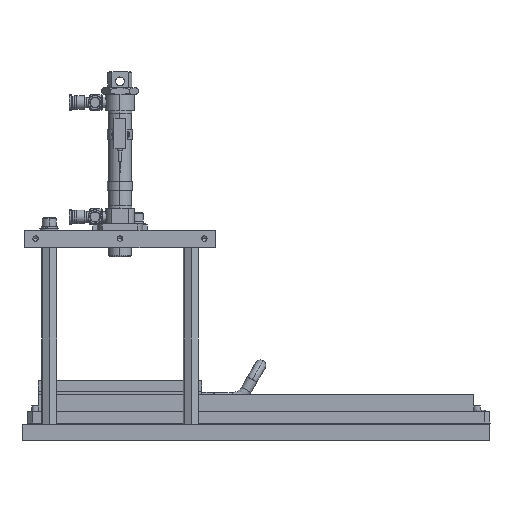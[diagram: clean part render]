
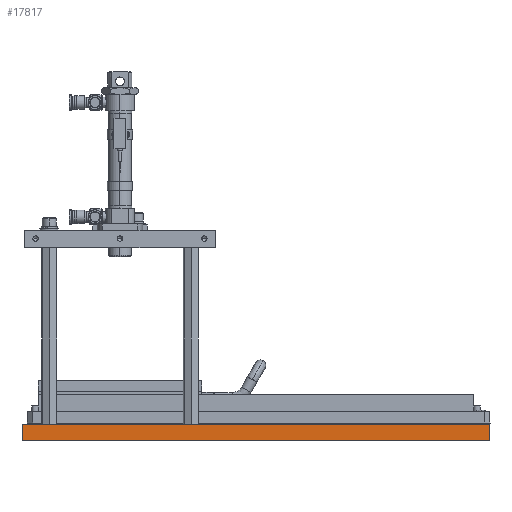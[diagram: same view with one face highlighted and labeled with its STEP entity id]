
A CAD part, left-side view. The second image highlights one B-rep face of the part: STEP entity #17817.
In plain terms, the highlighted planar face has unit normal (-1, 0, 0).
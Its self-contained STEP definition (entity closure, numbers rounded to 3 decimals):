
#3006 = CARTESIAN_POINT ( 'NONE',  ( -200., 0., 0. ) ) ;
#3911 = LINE ( 'NONE', #4642, #33573 ) ;
#4642 = CARTESIAN_POINT ( 'NONE',  ( -200., 15., 0. ) ) ;
#4795 = VERTEX_POINT ( 'NONE', #42993 ) ;
#4834 = ORIENTED_EDGE ( 'NONE', *, *, #22890, .T. ) ;
#5364 = EDGE_CURVE ( 'NONE', #4795, #25436, #3911, .T. ) ;
#6269 = DIRECTION ( 'NONE',  ( 1., 0., 0. ) ) ;
#7037 = CARTESIAN_POINT ( 'NONE',  ( -200., 15., -430. ) ) ;
#7386 = CARTESIAN_POINT ( 'NONE',  ( -200., 15., 0. ) ) ;
#8415 = CARTESIAN_POINT ( 'NONE',  ( -200., 0., 0. ) ) ;
#12520 = LINE ( 'NONE', #15578, #22869 ) ;
#14032 = ORIENTED_EDGE ( 'NONE', *, *, #5364, .F. ) ;
#15578 = CARTESIAN_POINT ( 'NONE',  ( -200., 15., -430. ) ) ;
#17817 = ADVANCED_FACE ( 'NONE', ( #24488 ), #48577, .F. ) ;
#19161 = DIRECTION ( 'NONE',  ( 0., -1., 0. ) ) ;
#21233 = ORIENTED_EDGE ( 'NONE', *, *, #25021, .T. ) ;
#22869 = VECTOR ( 'NONE', #19161, 1000. ) ;
#22890 = EDGE_CURVE ( 'NONE', #29162, #42719, #12520, .T. ) ;
#23117 = DIRECTION ( 'NONE',  ( 0., 0., 1. ) ) ;
#24430 = DIRECTION ( 'NONE',  ( 0., -1., 0. ) ) ;
#24488 = FACE_OUTER_BOUND ( 'NONE', #50101, .T. ) ;
#25021 = EDGE_CURVE ( 'NONE', #42719, #25436, #37763, .T. ) ;
#25436 = VERTEX_POINT ( 'NONE', #3006 ) ;
#27090 = DIRECTION ( 'NONE',  ( 0., 0., 1. ) ) ;
#28493 = CARTESIAN_POINT ( 'NONE',  ( -200., 0., -430. ) ) ;
#28948 = LINE ( 'NONE', #7386, #45310 ) ;
#28994 = CARTESIAN_POINT ( 'NONE',  ( -200., 15., 0. ) ) ;
#29162 = VERTEX_POINT ( 'NONE', #7037 ) ;
#33573 = VECTOR ( 'NONE', #24430, 1000. ) ;
#35424 = AXIS2_PLACEMENT_3D ( 'NONE', #28994, #6269, #44696 ) ;
#37763 = LINE ( 'NONE', #8415, #49254 ) ;
#42017 = EDGE_CURVE ( 'NONE', #29162, #4795, #28948, .T. ) ;
#42719 = VERTEX_POINT ( 'NONE', #28493 ) ;
#42993 = CARTESIAN_POINT ( 'NONE',  ( -200., 15., 0. ) ) ;
#44696 = DIRECTION ( 'NONE',  ( 0., 0., -1. ) ) ;
#45310 = VECTOR ( 'NONE', #23117, 1000. ) ;
#47454 = ORIENTED_EDGE ( 'NONE', *, *, #42017, .F. ) ;
#48577 = PLANE ( 'NONE',  #35424 ) ;
#49254 = VECTOR ( 'NONE', #27090, 1000. ) ;
#50101 = EDGE_LOOP ( 'NONE', ( #21233, #14032, #47454, #4834 ) ) ;
